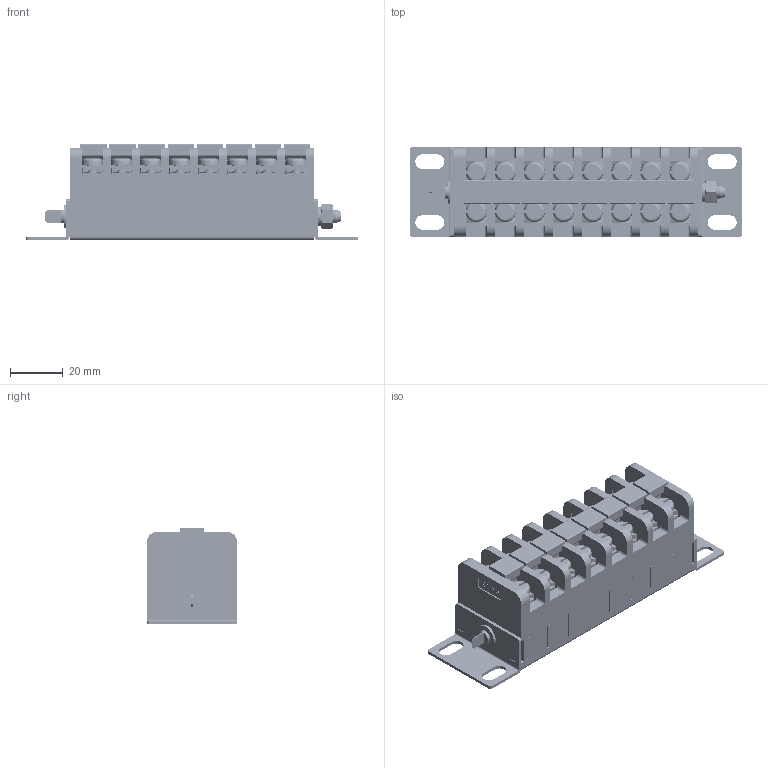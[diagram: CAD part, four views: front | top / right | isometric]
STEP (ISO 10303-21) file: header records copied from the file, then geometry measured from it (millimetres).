
FILE_DESCRIPTION(('STEP AP214'), '1');
FILE_NAME('ÁÇÍ28-4Ï25 (8 êëåìì â áëîêå) ', '2024-09-16T06:30:05', (''), (''), 'ASCON STEP Converter 1.6', 'ASCON Math Kernel', '');
FILE_SCHEMA(('AUTOMOTIVE_DESIGN { 1 0 10303 214 3 1 1}'));
Length unit declared in the file: millimetre
Bounding box: 125.5 x 34 x 36.5 mm (x, y, z)
Volume: 62231.7 mm3; surface area: 56797.4 mm2
Topology: 33 solids, 33 shells, 11309 faces, 31821 edges, 20914 vertices
Faces by surface type: cylinder 6557, plane 4378, bspline 256, cone 86, torus 32
Full cylindrical faces by diameter (mm): 4 x16, 4.1 x16, 5 x2, 5.3 x1, 5.5 x11, 6.5 x8, 9 x1, 10.5 x18
Entity records: 469766 total; most frequent: CARTESIAN_POINT 78810, DIRECTION 65214, ORIENTED_EDGE 63392, EDGE_CURVE 31696, AXIS2_PLACEMENT_3D 23716, VERTEX_POINT 20914, LINE 17782, VECTOR 17782
